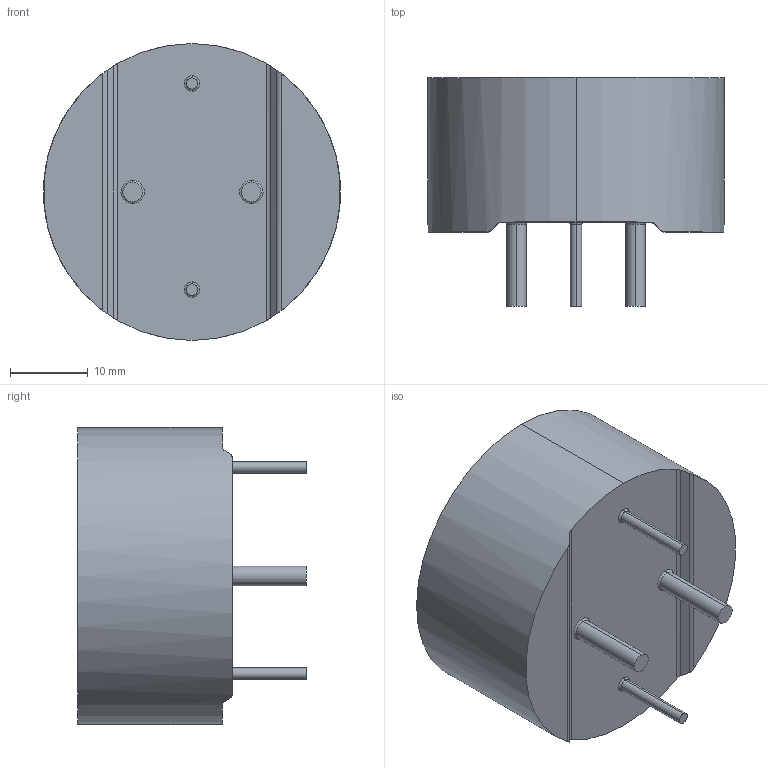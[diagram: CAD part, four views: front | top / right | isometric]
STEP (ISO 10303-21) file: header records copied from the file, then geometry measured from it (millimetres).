
FILE_DESCRIPTION (( 'STEP AP214' ), '1' );
FILE_NAME ('IHTH-1500TZ-5A 100uH.STEP', '2025-03-14T19:29:51', ( '' ), ( '' ), 'SwSTEP 2.0', 'SolidWorks 2024', '' );
FILE_SCHEMA (( 'AUTOMOTIVE_DESIGN' ));
Length unit declared in the file: inch
Products named in the file (1): IHTH-1500TZ-5A 100uH
Bounding box: 38.1 x 29.34 x 38.1 mm (x, y, z)
Volume: 21769.6 mm3; surface area: 4892.8 mm2
Topology: 1 solids, 1 shells, 211 faces, 538 edges, 356 vertices
Faces by surface type: plane 130, bspline 55, cylinder 18, torus 8
Entity records: 10109 total; most frequent: CARTESIAN_POINT 5325, ORIENTED_EDGE 1076, DIRECTION 778, EDGE_CURVE 538, LINE 368, VECTOR 368, VERTEX_POINT 356, EDGE_LOOP 238
